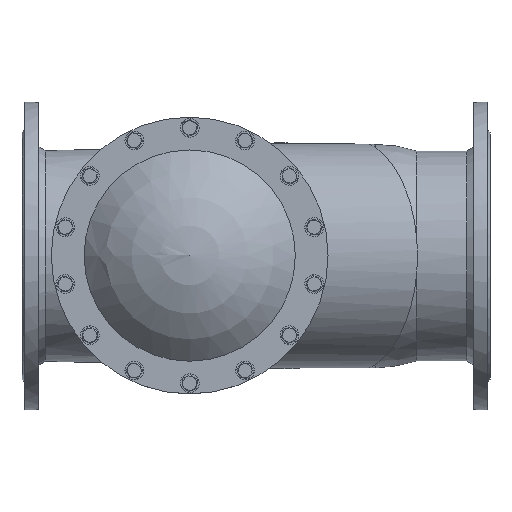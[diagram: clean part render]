
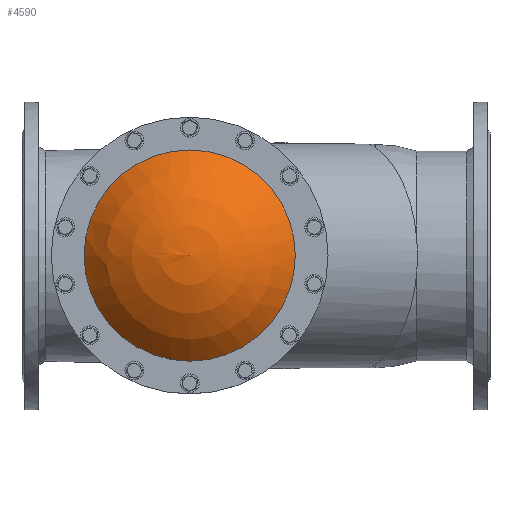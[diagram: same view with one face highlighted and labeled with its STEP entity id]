
A CAD part, top view. The second image highlights one B-rep face of the part: STEP entity #4590.
In plain terms, the highlighted spherical face has radius 207.45 mm.
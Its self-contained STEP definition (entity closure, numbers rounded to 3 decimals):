
#4590=ADVANCED_FACE('',(#8573),#8575,.T.);
#8573=FACE_OUTER_BOUND('',#8574,.T.);
#8574=EDGE_LOOP('',(#13191));
#8575=SPHERICAL_SURFACE('',#8576,207.449);
#8576=AXIS2_PLACEMENT_3D('',#8577,#8578,#8579);
#8577=CARTESIAN_POINT('',(0.,0.,-120.449));
#8578=DIRECTION('',(0.,0.,1.));
#8579=DIRECTION('',(0.,1.,0.));
#13191=ORIENTED_EDGE('',*,*,#14457,.F.);
#14457=EDGE_CURVE('',#16311,#16311,#16312,.F.);
#16311=VERTEX_POINT('',#22840);
#16312=CIRCLE('',#22841,157.983);
#22840=CARTESIAN_POINT('',(0.,157.983,14.));
#22841=AXIS2_PLACEMENT_3D('',#22842,#22843,#22844);
#22842=CARTESIAN_POINT('',(0.,0.,14.));
#22843=DIRECTION('',(0.,0.,1.));
#22844=DIRECTION('',(0.,1.,0.));
